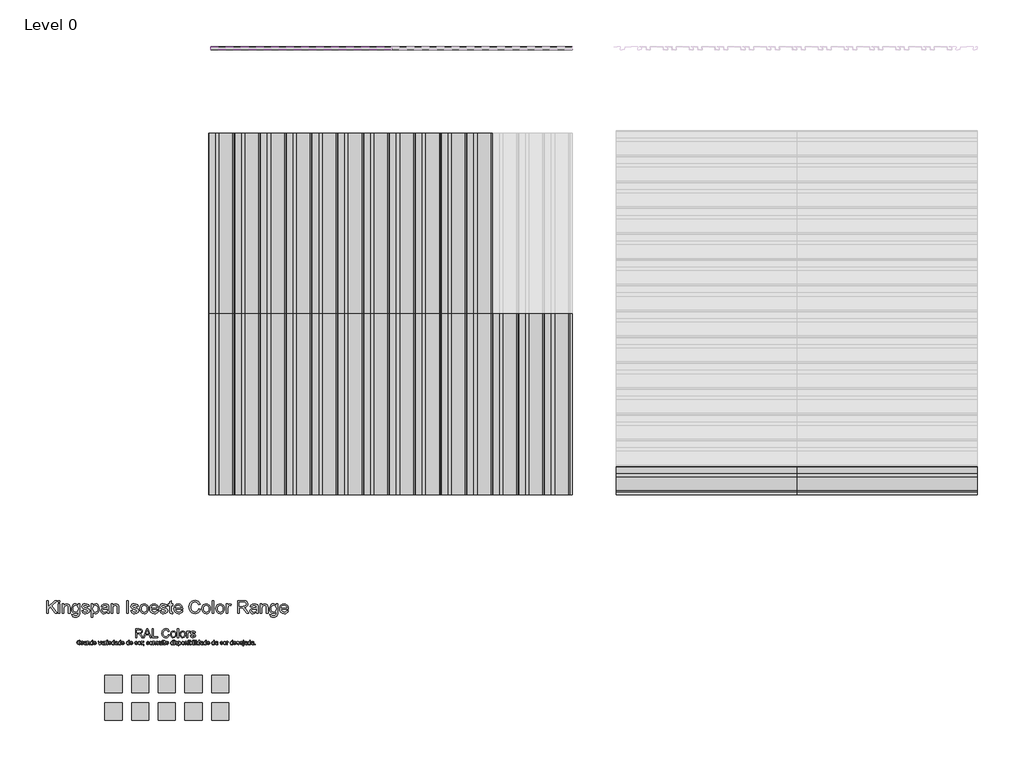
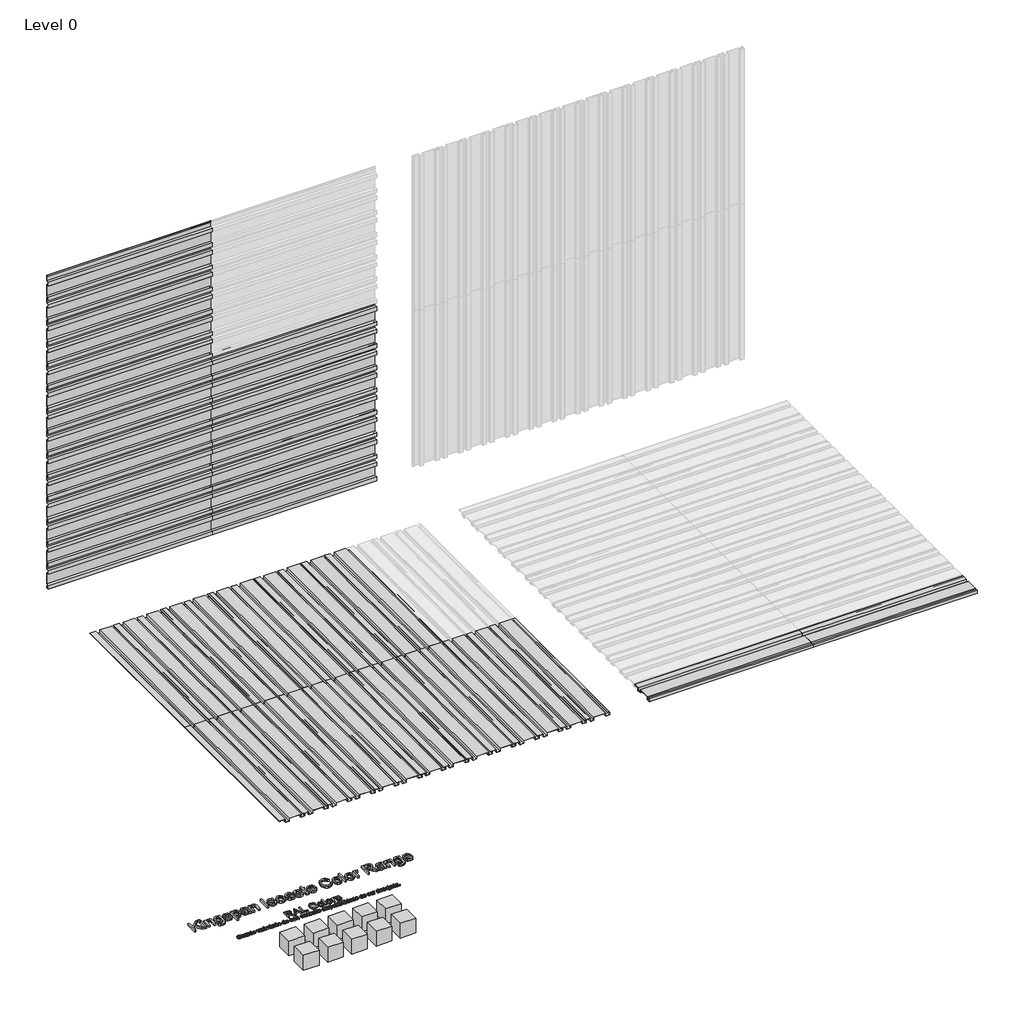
# One storey, part 1 of 2: 60 proxies.
"""IFC4 building model written with IfcOpenShell, lengths in millimetres."""

from ifc_helpers import new_model, si_unit, origin, place, context, project, spatial, transform, mapped, element, save
from components import proxy_32_ks_iso_colour_range_8220f766, proxy_32_ks_iso_colour_range_06d69407, ks_colour_sample_ks_colour_sample_0243efec, mx4_0_standard_panel_ns_50b23f36, mx4_0_standard_panel_ns_1fe548eb

model = new_model("IFC4")

# Units and contexts
model_context = context("Model", 3, world=origin())
ifc_project = project(units=[si_unit("LENGTHUNIT", "METRE", prefix="MILLI")], contexts=[model_context])

# Site, building, storey
site = spatial("IfcSite", under=ifc_project)
building = spatial("IfcBuilding", under=site)
storey = spatial("IfcBuildingStorey", under=building, Name="Level 0", Elevation=0.0)

# Proxies
placement = place(None, origin())
proxy_32_ks_iso_colour_range_shape = proxy_32_ks_iso_colour_range_8220f766(model_context)
proxy_32_ks_iso_colour_range_2_shape = proxy_32_ks_iso_colour_range_06d69407(model_context)
element("IfcBuildingElementProxy", 1, Name="32-KS-ISO-Colour Range : Kingspan Isoeste Color Range", ObjectType="32-KS-ISO-Colour Range : Kingspan Isoeste Color Range", at=placement, inside=storey, context=model_context, shape_type="MappedRepresentation", body=[
    mapped(proxy_32_ks_iso_colour_range_shape, transform((-3929.8390717, -2223.0925896, 0.0), x_axis=(1.0, 0.0, 0.0), y_axis=(0.0, 1.0, 0.0), z_axis=(0.0, 0.0, 1.0))),
    mapped(proxy_32_ks_iso_colour_range_2_shape, transform((-3929.8390717, -2223.0925896, 0.0), x_axis=(1.0, 0.0, 0.0), y_axis=(0.0, 1.0, 0.0), z_axis=(0.0, 0.0, 1.0))),
])
ks_colour_sample_ks_colour_sample_shape = ks_colour_sample_ks_colour_sample_0243efec(model_context)
element("IfcBuildingElementProxy", 2, Name="KS_Colour Sample : KS_Colour Sample", ObjectType="KS_Colour Sample : KS_Colour Sample", at=placement, inside=storey, context=model_context, shape_type="MappedRepresentation", body=[
    mapped(ks_colour_sample_ks_colour_sample_shape, transform((-3309.8390717, -2663.0925896, 0.0), x_axis=(1.0, 0.0, 0.0), y_axis=(0.0, 1.0, 0.0), z_axis=(0.0, 0.0, 1.0))),
])
element("IfcBuildingElementProxy", 3, Name="KS_Colour Sample : KS_Colour Sample", ObjectType="KS_Colour Sample : KS_Colour Sample", at=placement, inside=storey, context=model_context, shape_type="MappedRepresentation", body=[
    mapped(ks_colour_sample_ks_colour_sample_shape, transform((-3309.8390717, -2343.0925896, 0.0), x_axis=(1.0, 0.0, 0.0), y_axis=(0.0, 1.0, 0.0), z_axis=(0.0, 0.0, 1.0))),
])
element("IfcBuildingElementProxy", 4, Name="KS_Colour Sample : KS_Colour Sample", ObjectType="KS_Colour Sample : KS_Colour Sample", at=placement, inside=storey, context=model_context, shape_type="MappedRepresentation", body=[
    mapped(ks_colour_sample_ks_colour_sample_shape, transform((-4549.8390717, -2663.0925896, 0.0), x_axis=(1.0, 0.0, 0.0), y_axis=(0.0, 1.0, 0.0), z_axis=(0.0, 0.0, 1.0))),
])
element("IfcBuildingElementProxy", 5, Name="KS_Colour Sample : KS_Colour Sample", ObjectType="KS_Colour Sample : KS_Colour Sample", at=placement, inside=storey, context=model_context, shape_type="MappedRepresentation", body=[
    mapped(ks_colour_sample_ks_colour_sample_shape, transform((-4239.8390717, -2663.0925896, 0.0), x_axis=(1.0, 0.0, 0.0), y_axis=(0.0, 1.0, 0.0), z_axis=(0.0, 0.0, 1.0))),
])
element("IfcBuildingElementProxy", 6, Name="KS_Colour Sample : KS_Colour Sample", ObjectType="KS_Colour Sample : KS_Colour Sample", at=placement, inside=storey, context=model_context, shape_type="MappedRepresentation", body=[
    mapped(ks_colour_sample_ks_colour_sample_shape, transform((-3619.8390717, -2663.0925896, 0.0), x_axis=(1.0, 0.0, 0.0), y_axis=(0.0, 1.0, 0.0), z_axis=(0.0, 0.0, 1.0))),
])
element("IfcBuildingElementProxy", 7, Name="KS_Colour Sample : KS_Colour Sample", ObjectType="KS_Colour Sample : KS_Colour Sample", at=placement, inside=storey, context=model_context, shape_type="MappedRepresentation", body=[
    mapped(ks_colour_sample_ks_colour_sample_shape, transform((-4549.8390717, -2343.0925896, 0.0), x_axis=(1.0, 0.0, 0.0), y_axis=(0.0, 1.0, 0.0), z_axis=(0.0, 0.0, 1.0))),
])
element("IfcBuildingElementProxy", 8, Name="KS_Colour Sample : KS_Colour Sample", ObjectType="KS_Colour Sample : KS_Colour Sample", at=placement, inside=storey, context=model_context, shape_type="MappedRepresentation", body=[
    mapped(ks_colour_sample_ks_colour_sample_shape, transform((-4239.8390717, -2343.0925896, 0.0), x_axis=(1.0, 0.0, 0.0), y_axis=(0.0, 1.0, 0.0), z_axis=(0.0, 0.0, 1.0))),
])
element("IfcBuildingElementProxy", 9, Name="KS_Colour Sample : KS_Colour Sample", ObjectType="KS_Colour Sample : KS_Colour Sample", at=placement, inside=storey, context=model_context, shape_type="MappedRepresentation", body=[
    mapped(ks_colour_sample_ks_colour_sample_shape, transform((-3619.8390717, -2343.0925896, 0.0), x_axis=(1.0, 0.0, 0.0), y_axis=(0.0, 1.0, 0.0), z_axis=(0.0, 0.0, 1.0))),
])
element("IfcBuildingElementProxy", 10, Name="KS_Colour Sample : KS_Colour Sample", ObjectType="KS_Colour Sample : KS_Colour Sample", at=placement, inside=storey, context=model_context, shape_type="MappedRepresentation", body=[
    mapped(ks_colour_sample_ks_colour_sample_shape, transform((-3929.8390717, -2343.0925896, 0.0), x_axis=(1.0, 0.0, 0.0), y_axis=(0.0, 1.0, 0.0), z_axis=(0.0, 0.0, 1.0))),
])
element("IfcBuildingElementProxy", 11, Name="KS_Colour Sample : KS_Colour Sample", ObjectType="KS_Colour Sample : KS_Colour Sample", at=placement, inside=storey, context=model_context, shape_type="MappedRepresentation", body=[
    mapped(ks_colour_sample_ks_colour_sample_shape, transform((-3929.8390717, -2663.0925896, 0.0), x_axis=(1.0, 0.0, 0.0), y_axis=(0.0, 1.0, 0.0), z_axis=(0.0, 0.0, 1.0))),
])
mx4_0_standard_panel_ns_shape = mx4_0_standard_panel_ns_50b23f36(model_context)
element("IfcBuildingElementProxy", 12, Name="MX4.0 : Standard Panel_NS", ObjectType="MX4.0 : Standard Panel_NS", at=placement, inside=storey, context=model_context, shape_type="MappedRepresentation", body=[
    mapped(mx4_0_standard_panel_ns_shape, transform((-3417.7637295, 5063.0274074, 900.0), x_axis=(1.0, 0.0, 0.0), y_axis=(0.0, 0.0, 1.0), z_axis=(0.0, -1.0, 0.0))),
])
element("IfcBuildingElementProxy", 13, Name="MX4.0 : Standard Panel_NS", ObjectType="MX4.0 : Standard Panel_NS", at=placement, inside=storey, context=model_context, shape_type="MappedRepresentation", body=[
    mapped(mx4_0_standard_panel_ns_shape, transform((-3417.7637295, 5063.0274074, 3300.0), x_axis=(1.0, 0.0, 0.0), y_axis=(0.0, 0.0, 1.0), z_axis=(0.0, -1.0, 0.0))),
])
element("IfcBuildingElementProxy", 14, Name="MX4.0 : Standard Panel_NS", ObjectType="MX4.0 : Standard Panel_NS", at=placement, inside=storey, context=model_context, shape_type="MappedRepresentation", body=[
    mapped(mx4_0_standard_panel_ns_shape, transform((-1317.7637295, 5063.0274074, 900.0), x_axis=(1.0, 0.0, 0.0), y_axis=(0.0, 0.0, 1.0), z_axis=(0.0, -1.0, 0.0))),
])
mx4_0_standard_panel_ns_2_shape = mx4_0_standard_panel_ns_1fe548eb(model_context)
element("IfcBuildingElementProxy", 15, Name="MX4.0 : Standard Panel_NS", ObjectType="MX4.0 : Standard Panel_NS", at=placement, inside=storey, context=model_context, shape_type="MappedRepresentation", body=[
    mapped(mx4_0_standard_panel_ns_2_shape, transform((-117.7637297, -141.6886547, 0.0), x_axis=(0.0, 1.0, 0.0), y_axis=(-1.0, 0.0, 0.0), z_axis=(0.0, 0.0, 1.0))),
])
element("IfcBuildingElementProxy", 16, Name="MX4.0 : Standard Panel_NS", ObjectType="MX4.0 : Standard Panel_NS", at=placement, inside=storey, context=model_context, shape_type="MappedRepresentation", body=[
    mapped(mx4_0_standard_panel_ns_2_shape, transform((-2517.7637297, -141.6886547, 0.0), x_axis=(0.0, 1.0, 0.0), y_axis=(-1.0, 0.0, 0.0), z_axis=(0.0, 0.0, 1.0))),
])
element("IfcBuildingElementProxy", 17, Name="MX4.0 : Standard Panel_NS", ObjectType="MX4.0 : Standard Panel_NS", at=placement, inside=storey, context=model_context, shape_type="MappedRepresentation", body=[
    mapped(mx4_0_standard_panel_ns_2_shape, transform((-2517.7637297, 1958.3113453, 0.0), x_axis=(0.0, 1.0, 0.0), y_axis=(-1.0, 0.0, 0.0), z_axis=(0.0, 0.0, 1.0))),
])
element("IfcBuildingElementProxy", 18, Name="MX4.0 : Standard Panel_NS", ObjectType="MX4.0 : Standard Panel_NS", at=placement, inside=storey, context=model_context, shape_type="MappedRepresentation", body=[
    mapped(mx4_0_standard_panel_ns_2_shape, transform((-117.7637297, 1958.3113453, 0.0), x_axis=(0.0, 1.0, 0.0), y_axis=(-1.0, 0.0, 0.0), z_axis=(0.0, 0.0, 1.0))),
])
element("IfcBuildingElementProxy", 19, Name="MX4.0 : Standard Panel_NS", ObjectType="MX4.0 : Standard Panel_NS", at=placement, inside=storey, context=model_context, shape_type="MappedRepresentation", body=[
    mapped(mx4_0_standard_panel_ns_shape, transform((-3417.7637295, 5063.0274074, 0.0), x_axis=(1.0, 0.0, 0.0), y_axis=(0.0, 0.0, 1.0), z_axis=(0.0, -1.0, 0.0))),
])
element("IfcBuildingElementProxy", 20, Name="MX4.0 : Standard Panel_NS", ObjectType="MX4.0 : Standard Panel_NS", at=placement, inside=storey, context=model_context, shape_type="MappedRepresentation", body=[
    mapped(mx4_0_standard_panel_ns_shape, transform((-3417.7637295, 5063.0274074, 2400.0), x_axis=(1.0, 0.0, 0.0), y_axis=(0.0, 0.0, 1.0), z_axis=(0.0, -1.0, 0.0))),
])
element("IfcBuildingElementProxy", 21, Name="MX4.0 : Standard Panel_NS", ObjectType="MX4.0 : Standard Panel_NS", at=placement, inside=storey, context=model_context, shape_type="MappedRepresentation", body=[
    mapped(mx4_0_standard_panel_ns_shape, transform((-1317.7637295, 5063.0274074, 0.0), x_axis=(1.0, 0.0, 0.0), y_axis=(0.0, 0.0, 1.0), z_axis=(0.0, -1.0, 0.0))),
])
element("IfcBuildingElementProxy", 22, Name="MX4.0 : Standard Panel_NS", ObjectType="MX4.0 : Standard Panel_NS", at=placement, inside=storey, context=model_context, shape_type="MappedRepresentation", body=[
    mapped(mx4_0_standard_panel_ns_2_shape, transform((-1617.7637297, -141.6886547, 0.0), x_axis=(0.0, 1.0, 0.0), y_axis=(-1.0, 0.0, 0.0), z_axis=(0.0, 0.0, 1.0))),
])
element("IfcBuildingElementProxy", 23, Name="MX4.0 : Standard Panel_NS", ObjectType="MX4.0 : Standard Panel_NS", at=placement, inside=storey, context=model_context, shape_type="MappedRepresentation", body=[
    mapped(mx4_0_standard_panel_ns_2_shape, transform((1289.7088668, -141.6886547, 0.0), x_axis=(1.0, 0.0, 0.0), y_axis=(0.0, 1.0, 0.0), z_axis=(0.0, 0.0, 1.0))),
])
element("IfcBuildingElementProxy", 24, Name="MX4.0 : Standard Panel_NS", ObjectType="MX4.0 : Standard Panel_NS", at=placement, inside=storey, context=model_context, shape_type="MappedRepresentation", body=[
    mapped(mx4_0_standard_panel_ns_2_shape, transform((-1617.7637297, 1958.3113453, 0.0), x_axis=(0.0, 1.0, 0.0), y_axis=(-1.0, 0.0, 0.0), z_axis=(0.0, 0.0, 1.0))),
])
element("IfcBuildingElementProxy", 25, Name="MX4.0 : Standard Panel_NS", ObjectType="MX4.0 : Standard Panel_NS", at=placement, inside=storey, context=model_context, shape_type="MappedRepresentation", body=[
    mapped(mx4_0_standard_panel_ns_2_shape, transform((3389.7088668, -141.6886547, 0.0), x_axis=(1.0, 0.0, 0.0), y_axis=(0.0, 1.0, 0.0), z_axis=(0.0, 0.0, 1.0))),
])
element("IfcBuildingElementProxy", 26, Name="MX4.0 : Standard Panel_NS", ObjectType="MX4.0 : Standard Panel_NS", at=placement, inside=storey, context=model_context, shape_type="MappedRepresentation", body=[
    mapped(mx4_0_standard_panel_ns_2_shape, transform((782.2362705, -141.6886547, 0.0), x_axis=(0.0, 1.0, 0.0), y_axis=(-1.0, 0.0, 0.0), z_axis=(0.0, 0.0, 1.0))),
])
element("IfcBuildingElementProxy", 27, Name="MX4.0 : Standard Panel_NS", ObjectType="MX4.0 : Standard Panel_NS", at=placement, inside=storey, context=model_context, shape_type="MappedRepresentation", body=[
    mapped(mx4_0_standard_panel_ns_2_shape, transform((-3117.7637295, -141.6886547, 0.0), x_axis=(0.0, 1.0, 0.0), y_axis=(-1.0, 0.0, 0.0), z_axis=(0.0, 0.0, 1.0))),
])
element("IfcBuildingElementProxy", 28, Name="MX4.0 : Standard Panel_NS", ObjectType="MX4.0 : Standard Panel_NS", at=placement, inside=storey, context=model_context, shape_type="MappedRepresentation", body=[
    mapped(mx4_0_standard_panel_ns_2_shape, transform((-717.7637297, -141.6886547, 0.0), x_axis=(0.0, 1.0, 0.0), y_axis=(-1.0, 0.0, 0.0), z_axis=(0.0, 0.0, 1.0))),
])
element("IfcBuildingElementProxy", 29, Name="MX4.0 : Standard Panel_NS", ObjectType="MX4.0 : Standard Panel_NS", at=placement, inside=storey, context=model_context, shape_type="MappedRepresentation", body=[
    mapped(mx4_0_standard_panel_ns_2_shape, transform((-3117.7637295, 1958.3113453, 0.0), x_axis=(0.0, 1.0, 0.0), y_axis=(-1.0, 0.0, 0.0), z_axis=(0.0, 0.0, 1.0))),
])
element("IfcBuildingElementProxy", 30, Name="MX4.0 : Standard Panel_NS", ObjectType="MX4.0 : Standard Panel_NS", at=placement, inside=storey, context=model_context, shape_type="MappedRepresentation", body=[
    mapped(mx4_0_standard_panel_ns_2_shape, transform((-717.7637297, 1958.3113453, 0.0), x_axis=(0.0, 1.0, 0.0), y_axis=(-1.0, 0.0, 0.0), z_axis=(0.0, 0.0, 1.0))),
])
element("IfcBuildingElementProxy", 31, Name="MX4.0 : Standard Panel_NS", ObjectType="MX4.0 : Standard Panel_NS", at=placement, inside=storey, context=model_context, shape_type="MappedRepresentation", body=[
    mapped(mx4_0_standard_panel_ns_shape, transform((-3417.7637295, 5063.0274074, 1500.0), x_axis=(1.0, 0.0, 0.0), y_axis=(0.0, 0.0, 1.0), z_axis=(0.0, -1.0, 0.0))),
])
element("IfcBuildingElementProxy", 32, Name="MX4.0 : Standard Panel_NS", ObjectType="MX4.0 : Standard Panel_NS", at=placement, inside=storey, context=model_context, shape_type="MappedRepresentation", body=[
    mapped(mx4_0_standard_panel_ns_shape, transform((-3417.7637295, 5063.0274074, 3900.0), x_axis=(1.0, 0.0, 0.0), y_axis=(0.0, 0.0, 1.0), z_axis=(0.0, -1.0, 0.0))),
])
element("IfcBuildingElementProxy", 33, Name="MX4.0 : Standard Panel_NS", ObjectType="MX4.0 : Standard Panel_NS", at=placement, inside=storey, context=model_context, shape_type="MappedRepresentation", body=[
    mapped(mx4_0_standard_panel_ns_shape, transform((-1317.7637295, 5063.0274074, 1500.0), x_axis=(1.0, 0.0, 0.0), y_axis=(0.0, 0.0, 1.0), z_axis=(0.0, -1.0, 0.0))),
])
element("IfcBuildingElementProxy", 34, Name="MX4.0 : Standard Panel_NS", ObjectType="MX4.0 : Standard Panel_NS", at=placement, inside=storey, context=model_context, shape_type="MappedRepresentation", body=[
    mapped(mx4_0_standard_panel_ns_shape, transform((-3417.7637295, 5063.0274074, 300.0), x_axis=(1.0, 0.0, 0.0), y_axis=(0.0, 0.0, 1.0), z_axis=(0.0, -1.0, 0.0))),
])
element("IfcBuildingElementProxy", 35, Name="MX4.0 : Standard Panel_NS", ObjectType="MX4.0 : Standard Panel_NS", at=placement, inside=storey, context=model_context, shape_type="MappedRepresentation", body=[
    mapped(mx4_0_standard_panel_ns_shape, transform((-3417.7637295, 5063.0274074, 2700.0), x_axis=(1.0, 0.0, 0.0), y_axis=(0.0, 0.0, 1.0), z_axis=(0.0, -1.0, 0.0))),
])
element("IfcBuildingElementProxy", 36, Name="MX4.0 : Standard Panel_NS", ObjectType="MX4.0 : Standard Panel_NS", at=placement, inside=storey, context=model_context, shape_type="MappedRepresentation", body=[
    mapped(mx4_0_standard_panel_ns_shape, transform((-1317.7637295, 5063.0274074, 300.0), x_axis=(1.0, 0.0, 0.0), y_axis=(0.0, 0.0, 1.0), z_axis=(0.0, -1.0, 0.0))),
])
element("IfcBuildingElementProxy", 37, Name="MX4.0 : Standard Panel_NS", ObjectType="MX4.0 : Standard Panel_NS", at=placement, inside=storey, context=model_context, shape_type="MappedRepresentation", body=[
    mapped(mx4_0_standard_panel_ns_shape, transform((-3417.7637295, 5063.0274074, 600.0), x_axis=(1.0, 0.0, 0.0), y_axis=(0.0, 0.0, 1.0), z_axis=(0.0, -1.0, 0.0))),
])
element("IfcBuildingElementProxy", 38, Name="MX4.0 : Standard Panel_NS", ObjectType="MX4.0 : Standard Panel_NS", at=placement, inside=storey, context=model_context, shape_type="MappedRepresentation", body=[
    mapped(mx4_0_standard_panel_ns_shape, transform((-3417.7637295, 5063.0274074, 3000.0), x_axis=(1.0, 0.0, 0.0), y_axis=(0.0, 0.0, 1.0), z_axis=(0.0, -1.0, 0.0))),
])
element("IfcBuildingElementProxy", 39, Name="MX4.0 : Standard Panel_NS", ObjectType="MX4.0 : Standard Panel_NS", at=placement, inside=storey, context=model_context, shape_type="MappedRepresentation", body=[
    mapped(mx4_0_standard_panel_ns_shape, transform((-1317.7637295, 5063.0274074, 600.0), x_axis=(1.0, 0.0, 0.0), y_axis=(0.0, 0.0, 1.0), z_axis=(0.0, -1.0, 0.0))),
])
element("IfcBuildingElementProxy", 40, Name="MX4.0 : Standard Panel_NS", ObjectType="MX4.0 : Standard Panel_NS", at=placement, inside=storey, context=model_context, shape_type="MappedRepresentation", body=[
    mapped(mx4_0_standard_panel_ns_shape, transform((-3417.7637295, 5063.0274074, 1200.0), x_axis=(1.0, 0.0, 0.0), y_axis=(0.0, 0.0, 1.0), z_axis=(0.0, -1.0, 0.0))),
])
element("IfcBuildingElementProxy", 41, Name="MX4.0 : Standard Panel_NS", ObjectType="MX4.0 : Standard Panel_NS", at=placement, inside=storey, context=model_context, shape_type="MappedRepresentation", body=[
    mapped(mx4_0_standard_panel_ns_shape, transform((-3417.7637295, 5063.0274074, 3600.0), x_axis=(1.0, 0.0, 0.0), y_axis=(0.0, 0.0, 1.0), z_axis=(0.0, -1.0, 0.0))),
])
element("IfcBuildingElementProxy", 42, Name="MX4.0 : Standard Panel_NS", ObjectType="MX4.0 : Standard Panel_NS", at=placement, inside=storey, context=model_context, shape_type="MappedRepresentation", body=[
    mapped(mx4_0_standard_panel_ns_shape, transform((-1317.7637295, 5063.0274074, 1200.0), x_axis=(1.0, 0.0, 0.0), y_axis=(0.0, 0.0, 1.0), z_axis=(0.0, -1.0, 0.0))),
])
element("IfcBuildingElementProxy", 43, Name="MX4.0 : Standard Panel_NS", ObjectType="MX4.0 : Standard Panel_NS", at=placement, inside=storey, context=model_context, shape_type="MappedRepresentation", body=[
    mapped(mx4_0_standard_panel_ns_shape, transform((-3417.7637295, 5063.0274074, 1800.0), x_axis=(1.0, 0.0, 0.0), y_axis=(0.0, 0.0, 1.0), z_axis=(0.0, -1.0, 0.0))),
])
element("IfcBuildingElementProxy", 44, Name="MX4.0 : Standard Panel_NS", ObjectType="MX4.0 : Standard Panel_NS", at=placement, inside=storey, context=model_context, shape_type="MappedRepresentation", body=[
    mapped(mx4_0_standard_panel_ns_shape, transform((-1317.7637295, 5063.0274074, 1800.0), x_axis=(1.0, 0.0, 0.0), y_axis=(0.0, 0.0, 1.0), z_axis=(0.0, -1.0, 0.0))),
])
element("IfcBuildingElementProxy", 45, Name="MX4.0 : Standard Panel_NS", ObjectType="MX4.0 : Standard Panel_NS", at=placement, inside=storey, context=model_context, shape_type="MappedRepresentation", body=[
    mapped(mx4_0_standard_panel_ns_shape, transform((-3417.7637295, 5063.0274074, 2100.0), x_axis=(1.0, 0.0, 0.0), y_axis=(0.0, 0.0, 1.0), z_axis=(0.0, -1.0, 0.0))),
])
element("IfcBuildingElementProxy", 46, Name="MX4.0 : Standard Panel_NS", ObjectType="MX4.0 : Standard Panel_NS", at=placement, inside=storey, context=model_context, shape_type="MappedRepresentation", body=[
    mapped(mx4_0_standard_panel_ns_shape, transform((-1317.7637295, 5063.0274074, 2100.0), x_axis=(1.0, 0.0, 0.0), y_axis=(0.0, 0.0, 1.0), z_axis=(0.0, -1.0, 0.0))),
])
element("IfcBuildingElementProxy", 47, Name="MX4.0 : Standard Panel_NS", ObjectType="MX4.0 : Standard Panel_NS", at=placement, inside=storey, context=model_context, shape_type="MappedRepresentation", body=[
    mapped(mx4_0_standard_panel_ns_2_shape, transform((482.2362703, -141.6886547, 0.0), x_axis=(0.0, 1.0, 0.0), y_axis=(-1.0, 0.0, 0.0), z_axis=(0.0, 0.0, 1.0))),
])
element("IfcBuildingElementProxy", 48, Name="MX4.0 : Standard Panel_NS", ObjectType="MX4.0 : Standard Panel_NS", at=placement, inside=storey, context=model_context, shape_type="MappedRepresentation", body=[
    mapped(mx4_0_standard_panel_ns_2_shape, transform((-1917.7637297, -141.6886547, 0.0), x_axis=(0.0, 1.0, 0.0), y_axis=(-1.0, 0.0, 0.0), z_axis=(0.0, 0.0, 1.0))),
])
element("IfcBuildingElementProxy", 49, Name="MX4.0 : Standard Panel_NS", ObjectType="MX4.0 : Standard Panel_NS", at=placement, inside=storey, context=model_context, shape_type="MappedRepresentation", body=[
    mapped(mx4_0_standard_panel_ns_2_shape, transform((-1917.7637297, 1958.3113453, 0.0), x_axis=(0.0, 1.0, 0.0), y_axis=(-1.0, 0.0, 0.0), z_axis=(0.0, 0.0, 1.0))),
])
element("IfcBuildingElementProxy", 50, Name="MX4.0 : Standard Panel_NS", ObjectType="MX4.0 : Standard Panel_NS", at=placement, inside=storey, context=model_context, shape_type="MappedRepresentation", body=[
    mapped(mx4_0_standard_panel_ns_2_shape, transform((182.2362703, -141.6886547, 0.0), x_axis=(0.0, 1.0, 0.0), y_axis=(-1.0, 0.0, 0.0), z_axis=(0.0, 0.0, 1.0))),
])
element("IfcBuildingElementProxy", 51, Name="MX4.0 : Standard Panel_NS", ObjectType="MX4.0 : Standard Panel_NS", at=placement, inside=storey, context=model_context, shape_type="MappedRepresentation", body=[
    mapped(mx4_0_standard_panel_ns_2_shape, transform((-2217.7637297, -141.6886547, 0.0), x_axis=(0.0, 1.0, 0.0), y_axis=(-1.0, 0.0, 0.0), z_axis=(0.0, 0.0, 1.0))),
])
element("IfcBuildingElementProxy", 52, Name="MX4.0 : Standard Panel_NS", ObjectType="MX4.0 : Standard Panel_NS", at=placement, inside=storey, context=model_context, shape_type="MappedRepresentation", body=[
    mapped(mx4_0_standard_panel_ns_2_shape, transform((-2217.7637297, 1958.3113453, 0.0), x_axis=(0.0, 1.0, 0.0), y_axis=(-1.0, 0.0, 0.0), z_axis=(0.0, 0.0, 1.0))),
])
element("IfcBuildingElementProxy", 53, Name="MX4.0 : Standard Panel_NS", ObjectType="MX4.0 : Standard Panel_NS", at=placement, inside=storey, context=model_context, shape_type="MappedRepresentation", body=[
    mapped(mx4_0_standard_panel_ns_2_shape, transform((-417.7637297, -141.6886547, 0.0), x_axis=(0.0, 1.0, 0.0), y_axis=(-1.0, 0.0, 0.0), z_axis=(0.0, 0.0, 1.0))),
])
element("IfcBuildingElementProxy", 54, Name="MX4.0 : Standard Panel_NS", ObjectType="MX4.0 : Standard Panel_NS", at=placement, inside=storey, context=model_context, shape_type="MappedRepresentation", body=[
    mapped(mx4_0_standard_panel_ns_2_shape, transform((-2817.7637297, -141.6886547, 0.0), x_axis=(0.0, 1.0, 0.0), y_axis=(-1.0, 0.0, 0.0), z_axis=(0.0, 0.0, 1.0))),
])
element("IfcBuildingElementProxy", 55, Name="MX4.0 : Standard Panel_NS", ObjectType="MX4.0 : Standard Panel_NS", at=placement, inside=storey, context=model_context, shape_type="MappedRepresentation", body=[
    mapped(mx4_0_standard_panel_ns_2_shape, transform((-2817.7637297, 1958.3113453, 0.0), x_axis=(0.0, 1.0, 0.0), y_axis=(-1.0, 0.0, 0.0), z_axis=(0.0, 0.0, 1.0))),
])
element("IfcBuildingElementProxy", 56, Name="MX4.0 : Standard Panel_NS", ObjectType="MX4.0 : Standard Panel_NS", at=placement, inside=storey, context=model_context, shape_type="MappedRepresentation", body=[
    mapped(mx4_0_standard_panel_ns_2_shape, transform((-417.7637297, 1958.3113453, 0.0), x_axis=(0.0, 1.0, 0.0), y_axis=(-1.0, 0.0, 0.0), z_axis=(0.0, 0.0, 1.0))),
])
element("IfcBuildingElementProxy", 57, Name="MX4.0 : Standard Panel_NS", ObjectType="MX4.0 : Standard Panel_NS", at=placement, inside=storey, context=model_context, shape_type="MappedRepresentation", body=[
    mapped(mx4_0_standard_panel_ns_2_shape, transform((-1017.7637297, -141.6886547, 0.0), x_axis=(0.0, 1.0, 0.0), y_axis=(-1.0, 0.0, 0.0), z_axis=(0.0, 0.0, 1.0))),
])
element("IfcBuildingElementProxy", 58, Name="MX4.0 : Standard Panel_NS", ObjectType="MX4.0 : Standard Panel_NS", at=placement, inside=storey, context=model_context, shape_type="MappedRepresentation", body=[
    mapped(mx4_0_standard_panel_ns_2_shape, transform((-1017.7637297, 1958.3113453, 0.0), x_axis=(0.0, 1.0, 0.0), y_axis=(-1.0, 0.0, 0.0), z_axis=(0.0, 0.0, 1.0))),
])
element("IfcBuildingElementProxy", 59, Name="MX4.0 : Standard Panel_NS", ObjectType="MX4.0 : Standard Panel_NS", at=placement, inside=storey, context=model_context, shape_type="MappedRepresentation", body=[
    mapped(mx4_0_standard_panel_ns_2_shape, transform((-1317.7637297, -141.6886547, 0.0), x_axis=(0.0, 1.0, 0.0), y_axis=(-1.0, 0.0, 0.0), z_axis=(0.0, 0.0, 1.0))),
])
element("IfcBuildingElementProxy", 60, Name="MX4.0 : Standard Panel_NS", ObjectType="MX4.0 : Standard Panel_NS", at=placement, inside=storey, context=model_context, shape_type="MappedRepresentation", body=[
    mapped(mx4_0_standard_panel_ns_2_shape, transform((-1317.7637297, 1958.3113453, 0.0), x_axis=(0.0, 1.0, 0.0), y_axis=(-1.0, 0.0, 0.0), z_axis=(0.0, 0.0, 1.0))),
])

save(model, "model.ifc")
